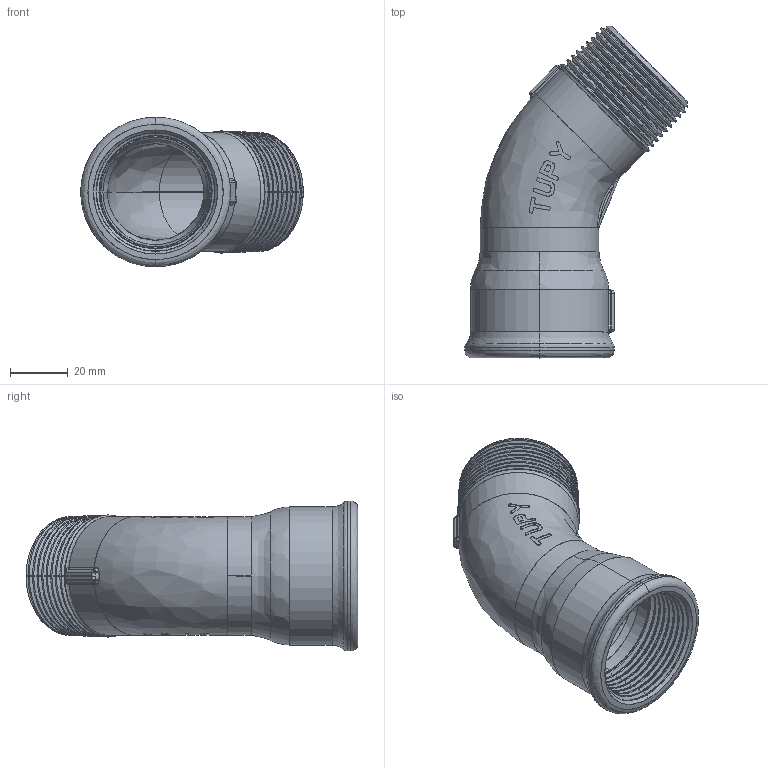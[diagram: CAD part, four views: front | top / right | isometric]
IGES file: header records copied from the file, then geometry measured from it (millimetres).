
Start section: SolidWorks IGES file using analytic representation for surfaces
Global section: file name: C:\Users\Joel Rosa\Desktop\Tubulação\12-27-OK\12-27-008.IGS; native system: SolidWorks 2011; preprocessor: SolidWorks 2011; author: Joel Rosa; date: 130205.214210; units: millimetre
Bounding box: 77.34 x 115.34 x 52 mm (x, y, z)
Surface area: 33162.8 mm2 (no closed solid volume)
Topology: 0 solids, 0 shells, 397 faces, 3062 edges, 3062 vertices
Faces by surface type: bspline 276, revolution 121
